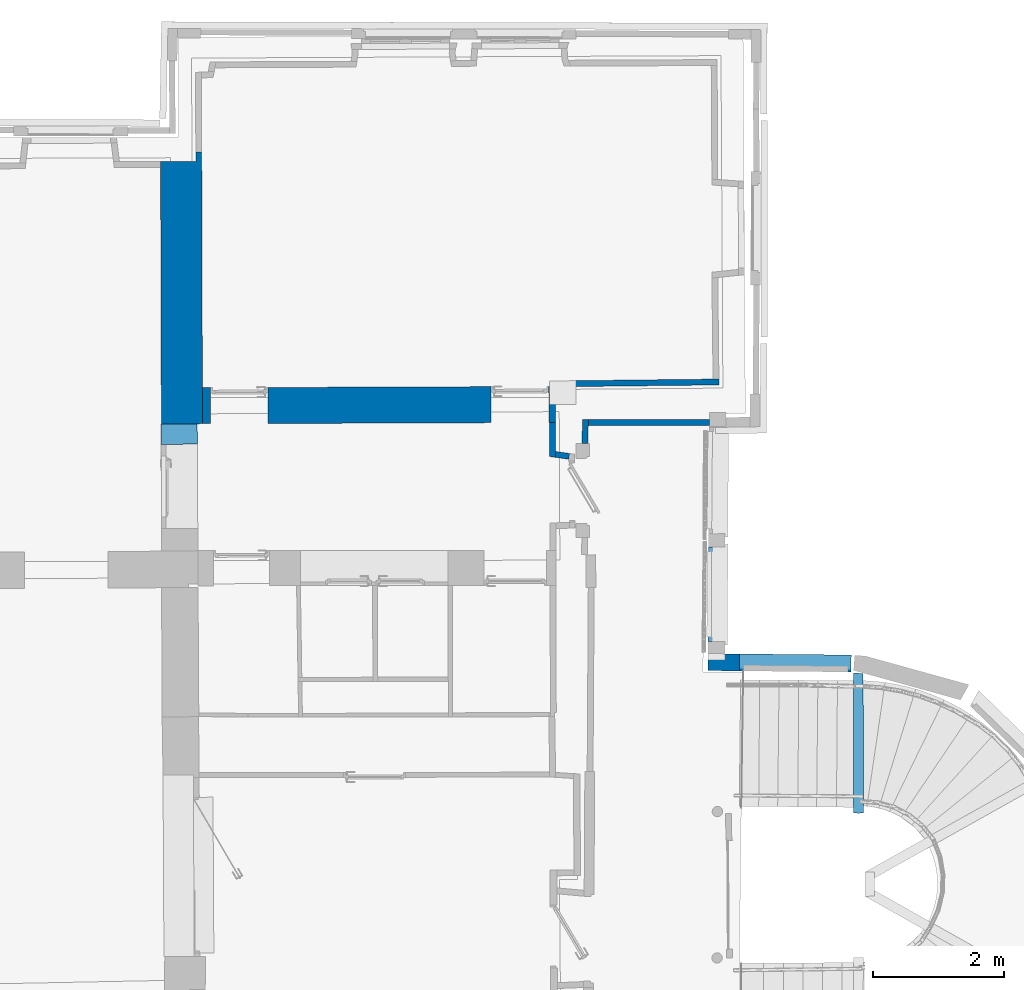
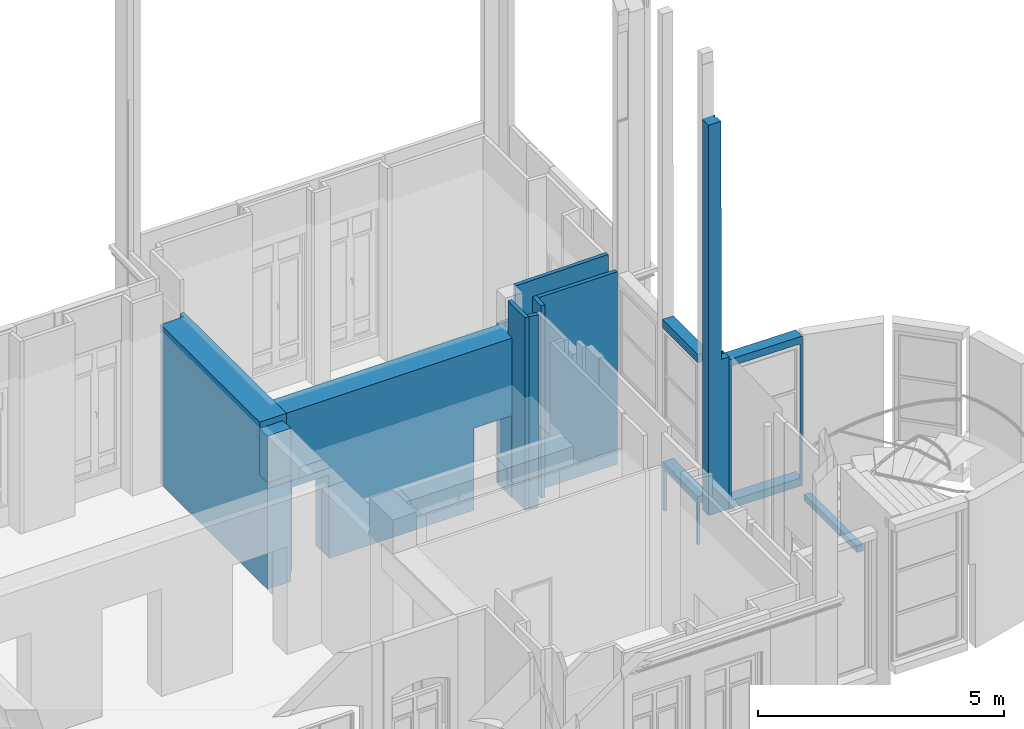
# One storey, part 17 of 97: 12 walls, 5 openings.
"""IFC2X3 building model written with IfcOpenShell, lengths in centimetres."""

import ifcopenshell
import ifcopenshell.guid

model = None  # the IFC model being written
_history = None  # IfcOwnerHistory: only IFC2X3 demands one
_inside = {}  # id of a spatial element -> (the spatial element, [elements in it])
_under = {}  # id of a project, library or spatial element -> (it, [spatial elements below it])
_declared = {}  # id of a project -> (the project, [libraries it declares])
_typed = {}  # id of a type object -> (the type object, [elements of that type])
_made_of = {}  # id of a material, layer set ... -> (it, [elements and type objects made of it])


def new_model(schema):
    """Start an empty IFC model of exactly this schema.

    Asked for "IFC4X3", IfcOpenShell would pick the latest addendum, in which some entities
    have other attributes; the version numbers below select the first issue.
    IFC2X3 requires an IfcOwnerHistory on every rooted entity: one is made here for all.
    """
    global model, _history
    if schema == "IFC4X3":
        model = ifcopenshell.file(schema_version=(4, 3, 0, 0))
    else:
        model = ifcopenshell.file(schema=schema)
    _inside.clear()
    _under.clear()
    _declared.clear()
    _typed.clear()
    _made_of.clear()
    _history = None
    if model.schema == "IFC2X3":
        org = make("IfcOrganization", Name="unknown")
        user = make(
            "IfcPersonAndOrganization",
            ThePerson=make("IfcPerson", FamilyName="unknown"),
            TheOrganization=org,
        )
        app = make(
            "IfcApplication",
            ApplicationDeveloper=org,
            Version="unknown",
            ApplicationFullName="unknown",
            ApplicationIdentifier="unknown",
        )
        _history = make(
            "IfcOwnerHistory",
            OwningUser=user,
            OwningApplication=app,
            ChangeAction="ADDED",
            CreationDate=0,
        )
    return model


def make(cls, **values):
    """One entity of the class cls with the attributes given. An attribute that is None is left unset."""
    return model.create_entity(
        cls, **{name: value for name, value in values.items() if value is not None}
    )


def entity(cls, *values):
    """Any entity or typed value of the class cls, its attributes in the order of the schema. None: left unset."""
    e = model.create_entity(cls)
    for i, value in enumerate(values):
        if value is not None:
            e[i] = value
    return e


def rooted(cls, **values):
    """An entity with a GlobalId (a new one), such as an element, a storey or a relation."""
    return make(cls, GlobalId=ifcopenshell.guid.new(), OwnerHistory=_history, **values)


def si_unit(unit_type, name, prefix=None):
    """IfcSIUnit, for example si_unit("LENGTHUNIT", "METRE", prefix="MILLI")."""
    return make("IfcSIUnit", UnitType=unit_type, Prefix=prefix, Name=name)


def converted_unit(unit_type, name, factor, base, dimensions=None, offset=None):
    """IfcConversionBasedUnit, such as the inch: factor (a typed value) times the base unit."""
    return make(
        "IfcConversionBasedUnit"
        if offset is None
        else "IfcConversionBasedUnitWithOffset",
        ConversionOffset=offset,
        Dimensions=None
        if dimensions is None
        else entity("IfcDimensionalExponents", *dimensions),
        UnitType=unit_type,
        Name=name,
        ConversionFactor=make(
            "IfcMeasureWithUnit", ValueComponent=factor, UnitComponent=base
        ),
    )


def assignment(units):
    """IfcUnitAssignment: the units of a project."""
    return None if units is None else make("IfcUnitAssignment", Units=units)


def point(xyz):
    """IfcCartesianPoint."""
    return None if xyz is None else make("IfcCartesianPoint", Coordinates=xyz)


def direction(xyz):
    """IfcDirection."""
    return None if xyz is None else make("IfcDirection", DirectionRatios=xyz)


def frame(location, z_axis=None, x_axis=None):
    """IfcAxis2Placement3D, a coordinate frame: its origin and axes. An axis left out is left unset."""
    return make(
        "IfcAxis2Placement3D",
        Location=point(location),
        Axis=direction(z_axis),
        RefDirection=direction(x_axis),
    )


def frame_2d(location, x_axis=None):
    """IfcAxis2Placement2D, a coordinate frame in the plane: its origin and x axis."""
    return make(
        "IfcAxis2Placement2D", Location=point(location), RefDirection=direction(x_axis)
    )


def origin():
    """The frame at (0, 0, 0) with its axes left unset."""
    return frame((0.0, 0.0, 0.0))


def origin_with_axes():
    """The frame at (0, 0, 0) with the z axis (0, 0, 1) and the x axis (1, 0, 0) written out."""
    return frame((0.0, 0.0, 0.0), z_axis=(0.0, 0.0, 1.0), x_axis=(1.0, 0.0, 0.0))


def origin_2d_with_axis():
    """The frame at (0, 0) in the plane with the x axis (1, 0) written out."""
    return frame_2d((0.0, 0.0), x_axis=(1.0, 0.0))


def place(relative_to, where):
    """IfcLocalPlacement: puts the frame where relative to a parent placement (None: the world)."""
    return make(
        "IfcLocalPlacement", PlacementRelTo=relative_to, RelativePlacement=where
    )


def context(
    kind, dimensions, precision=None, world=None, true_north=None, identifier=None
):
    """IfcGeometricRepresentationContext, for example the 3D "Model" context."""
    return make(
        "IfcGeometricRepresentationContext",
        ContextIdentifier=identifier,
        ContextType=kind,
        CoordinateSpaceDimension=dimensions,
        Precision=precision,
        WorldCoordinateSystem=world,
        TrueNorth=true_north,
    )


def subcontext(parent, identifier, kind, view, scale=None):
    """IfcGeometricRepresentationSubContext, for example "Body" below "Model"."""
    return make(
        "IfcGeometricRepresentationSubContext",
        ContextIdentifier=identifier,
        ContextType=kind,
        ParentContext=parent,
        TargetScale=scale,
        TargetView=view,
    )


def project(units=None, contexts=None):
    """IfcProject with its units and contexts."""
    return rooted(
        "IfcProject",
        Name="project",
        RepresentationContexts=contexts,
        UnitsInContext=assignment(units),
    )


def spatial(cls, under=None, at=None, **own):
    """A site, building, storey or space (cls), placed at a placement, below another one or the project."""
    s = rooted(cls, ObjectPlacement=at, **own)
    if under is not None:
        _under.setdefault(under.id(), (under, []))[1].append(s)
    return s


def polyline(points):
    """IfcPolyline through the points."""
    return make("IfcPolyline", Points=[point(p) for p in points])


def profile(cls, at=None, kind="AREA", **sizes):
    """A parametric profile (cls). Its sizes go by their IFC names, for example OverallWidth=200.0."""
    return make(cls, ProfileType=kind, Position=at, **sizes)


def rectangle(**sizes):
    """IfcRectangleProfileDef."""
    return profile("IfcRectangleProfileDef", **sizes)


def outline(outer, holes=None, kind="AREA"):
    """IfcArbitraryClosedProfileDef: a profile drawn as a closed curve; with holes, ...WithVoids."""
    if holes is None:
        return make("IfcArbitraryClosedProfileDef", ProfileType=kind, OuterCurve=outer)
    return make(
        "IfcArbitraryProfileDefWithVoids",
        ProfileType=kind,
        OuterCurve=outer,
        InnerCurves=holes,
    )


def extrude(swept, where, along, depth):
    """IfcExtrudedAreaSolid: the profile swept, set in the frame where, extruded along a direction by depth."""
    return make(
        "IfcExtrudedAreaSolid",
        SweptArea=swept,
        Position=where,
        ExtrudedDirection=direction(along),
        Depth=depth,
    )


def clip(a, b, op="DIFFERENCE"):
    """IfcBooleanClippingResult: the solid a cut by the half space b."""
    return make(
        "IfcBooleanClippingResult", Operator=op, FirstOperand=a, SecondOperand=b
    )


def bounded_halfspace(plane, agree, where, boundary):
    """IfcPolygonalBoundedHalfSpace: a half space limited to a polygon's prism."""
    return make(
        "IfcPolygonalBoundedHalfSpace",
        BaseSurface=make("IfcPlane", Position=plane),
        AgreementFlag=agree,
        Position=where,
        PolygonalBoundary=boundary,
    )


def faces_of(points, faces, orient=None, outer=None):
    """IfcFace entities. A face is a list of loops; a loop is a list of indices into points, from 0.

    orient and outer hold one flag for each loop. By default every Orientation is true, the
    first loop of a face is its IfcFaceOuterBound and the others are IfcFaceBound.
    """
    made = []
    for i, loops in enumerate(faces):
        bounds = []
        for j, loop in enumerate(loops):
            is_outer = j == 0 if outer is None else outer[i][j]
            bounds.append(
                make(
                    "IfcFaceOuterBound" if is_outer else "IfcFaceBound",
                    Bound=make("IfcPolyLoop", Polygon=[points[k] for k in loop]),
                    Orientation=True if orient is None else orient[i][j],
                )
            )
        made.append(make("IfcFace", Bounds=bounds))
    return made


def faceted_brep(points, faces, orient=None, outer=None, voids=None):
    """IfcFacetedBrep: a solid bounded by flat faces; with voids (closed shells), ...WithVoids."""
    shared = [point(p) for p in points]
    hull = make("IfcClosedShell", CfsFaces=faces_of(shared, faces, orient, outer))
    if voids is None:
        return make("IfcFacetedBrep", Outer=hull)
    return make(
        "IfcFacetedBrepWithVoids",
        Outer=hull,
        Voids=[
            make(cls, CfsFaces=faces_of(shared, fs, o, b)) for cls, fs, o, b in voids
        ],
    )


def shape(context_of_items, identifier, shape_type, items):
    """IfcShapeRepresentation: the items that make up one representation, for example the "Body"."""
    return make(
        "IfcShapeRepresentation",
        ContextOfItems=context_of_items,
        RepresentationIdentifier=identifier,
        RepresentationType=shape_type,
        Items=items,
    )


def material(Name=None, Category=None):
    """IfcMaterial."""
    return make("IfcMaterial", Name=Name, Category=Category)


def layer(
    of_material, thickness, ventilated=None, Name=None, Category=None, Priority=None
):
    """IfcMaterialLayer: one layer of a wall or slab, of a material (None: an air gap)."""
    return make(
        "IfcMaterialLayer",
        Material=of_material,
        LayerThickness=thickness,
        IsVentilated=ventilated,
        Name=Name,
        Category=Category,
        Priority=Priority,
    )


def layer_set(layers, Name=None):
    """IfcMaterialLayerSet."""
    return make("IfcMaterialLayerSet", MaterialLayers=layers, LayerSetName=Name)


def layer_usage(for_layer_set, set_direction, sense, offset, extent=None):
    """IfcMaterialLayerSetUsage: how a layer set lies in its element."""
    return make(
        "IfcMaterialLayerSetUsage",
        ForLayerSet=for_layer_set,
        LayerSetDirection=set_direction,
        DirectionSense=sense,
        OffsetFromReferenceLine=offset,
        ReferenceExtent=extent,
    )


def made_of(thing, what):
    """Note that an element or type object is made of a material, layer set ...; save() writes the relation."""
    if what is not None:
        _made_of.setdefault(what.id(), (what, []))[1].append(thing)
    return thing


def type_object(cls, material=None, **own):
    """A type object (cls), such as IfcWallType, which elements share."""
    return made_of(rooted(cls, **own), material)


def element(
    cls,
    number,
    at=None,
    inside=None,
    cuts=None,
    type_object=None,
    material=None,
    context=None,
    identifier="Body",
    shape_type=None,
    held_by="IfcProductDefinitionShape",
    body=None,
    shapes=None,
    **own,
):
    """One element of the class cls, such as IfcWall. Its Tag is "e" and its number.

    at: its placement. inside: the storey or other place that contains it. cuts: it is an
    opening in that element (IfcRelVoidsElement). A single representation is given by context,
    identifier, shape_type and body (its items); several are given by shapes. held_by: the class
    of the entity that holds the representations. save() writes the other relations.
    """
    e = rooted(cls, Tag="e%d" % number, ObjectPlacement=at, **own)
    if body is not None:
        shapes = [shape(context, identifier, shape_type, body)]
    if shapes is not None:
        e.Representation = make(held_by, Representations=shapes)
    if inside is not None:
        _inside.setdefault(inside.id(), (inside, []))[1].append(e)
    if cuts is not None:
        rooted(
            "IfcRelVoidsElement", RelatingBuildingElement=cuts, RelatedOpeningElement=e
        )
    if type_object is not None:
        _typed.setdefault(type_object.id(), (type_object, []))[1].append(e)
    return made_of(e, material)


def aggregate(whole, parts):
    """IfcRelAggregates: a whole, such as a stair, and the parts it consists of."""
    return rooted("IfcRelAggregates", RelatingObject=whole, RelatedObjects=parts)


def save(model, path):
    """Write the relations noted so far, then the file.

    IfcRelAggregates (storeys below a building ...), IfcRelContainedInSpatialStructure (elements
    in a storey), IfcRelDefinesByType, IfcRelAssociatesMaterial and IfcRelDeclares: one each for
    every whole, place, type object, material and project.
    """
    for whole, parts in _under.values():
        aggregate(whole, parts)
    for where, things in _inside.values():
        rooted(
            "IfcRelContainedInSpatialStructure",
            RelatedElements=things,
            RelatingStructure=where,
        )
    for kind, things in _typed.values():
        rooted("IfcRelDefinesByType", RelatedObjects=things, RelatingType=kind)
    for what, things in _made_of.values():
        rooted("IfcRelAssociatesMaterial", RelatedObjects=things, RelatingMaterial=what)
    for by, libraries in _declared.values():
        rooted("IfcRelDeclares", RelatingContext=by, RelatedDefinitions=libraries)
    model.write(path)


model = new_model("IFC2X3")

# Units and contexts
model_context = context("Model", 3, precision=0.0001, world=origin(), true_north=direction((0.225632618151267, 0.974212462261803, 0.0)))
body_context = subcontext(model_context, "Body", "Model", "MODEL_VIEW")
footprint_context = subcontext(model_context, "FootPrint", "Model", "MODEL_VIEW")
profile_context = subcontext(model_context, "Profile", "Model", "MODEL_VIEW")
ifc_project = project(units=[si_unit("LENGTHUNIT", "METRE", prefix="CENTI"), si_unit("AREAUNIT", "SQUARE_METRE", prefix="CENTI"), si_unit("VOLUMEUNIT", "CUBIC_METRE", prefix="CENTI"), converted_unit("PLANEANGLEUNIT", "DEGREE", entity("IfcRatioMeasure", 0.0174532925), si_unit("PLANEANGLEUNIT", "RADIAN"), dimensions=[0, 0, 0, 0, 0, 0, 0])], contexts=[model_context])

# Site, building, storey
site_placement = place(None, origin_with_axes())
site = spatial("IfcSite", under=ifc_project, at=site_placement, Name="Default Site", CompositionType="ELEMENT")
building_placement = place(site_placement, origin_with_axes())
building = spatial("IfcBuilding", under=site, at=building_placement, Name="Default Building", CompositionType="ELEMENT")
storey_placement = place(building_placement, origin_with_axes())
storey = spatial("IfcBuildingStorey", under=building, at=storey_placement, Name="Rez-de-chaussée", CompositionType="ELEMENT", Elevation=0.0)

# Wall, opening
ifc_material = material(Name="<aucun>")
ifc_layer_1 = layer(ifc_material, 26.0)
ifc_layer_set_1 = layer_set([ifc_layer_1], Name="default")
ifc_layer_usage_1 = layer_usage(ifc_layer_set_1, "AXIS2", "POSITIVE", -13.0)
wall_type_1 = type_object("IfcWallType", Name="default 260", PredefinedType="NOTDEFINED", material=ifc_layer_set_1)
wall_1_placement = place(storey_placement, frame((1291.15030565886, -210.44632109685, 100.0), z_axis=(0.0, 0.0, 1.0), x_axis=(-0.999951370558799, 0.00986187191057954, 0.0)))
wall_1 = element("IfcWallStandardCase", 1, at=wall_1_placement, inside=storey, type_object=wall_type_1, material=ifc_layer_usage_1, Name="Enveloppe 531206", context=body_context, shape_type="SweptSolid", body=[
    extrude(rectangle(XDim=26.0, YDim=170.571765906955, at=origin_2d_with_axis()), frame((87.0614002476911, -0.000168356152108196, 0.0), z_axis=(0.0, 0.0, 1.0), x_axis=(-8.67361737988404e-18, -1.0, 0.0)), (0.0, 0.0, 1.0), 370.795358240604),
])
opening_1_placement = place(wall_1_placement, frame((0.56850959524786, -2.8421709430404e-14, 19.7999999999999), z_axis=(0.0, 0.0, 1.0), x_axis=(-1.0, -5.95530569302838e-15, 0.0)))
cartesian_point_1 = entity("IfcCartesianPoint", [0.0, 0.0, 333.0])
cartesian_point_2 = entity("IfcCartesianPoint", [-171.904604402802, -13.0])
element("IfcOpeningElement", 2, at=opening_1_placement, cuts=wall_1, Name="4294966542_11", ObjectType="Opening", shapes=[
    shape(body_context, "Body", "Brep", [faceted_brep([(-6.0000248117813, -32.9999884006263, 332.999987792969), (-165.904651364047, -32.9999884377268, 332.999987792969), (-165.904651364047, -32.9999884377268, -4.57763671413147e-06), (-6.0000248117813, -32.9999884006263, -4.57763671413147e-06), (2.21615607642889e-05, 32.9999953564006, -4.57763671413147e-06), (-171.904604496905, 32.999995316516, -4.57763671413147e-06), (-171.904604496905, 32.999995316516, 332.999987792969), (2.21615607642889e-05, 32.9999953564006, 332.999987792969), (-6.00002481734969, -8.99998842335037, -4.57763671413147e-06), (-6.00002481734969, -8.99998842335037, 332.999987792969), (-6.00000777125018, -8.99998842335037, 332.999987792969), (-6.00000777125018, -8.99998842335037, -4.57763671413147e-06), (3.99044656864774e-05, -8.99998842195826, -4.57763671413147e-06), (3.99044656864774e-05, -8.99998842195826, 332.999987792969), (3.99044656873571e-05, -8.99999221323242, 332.999987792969), (3.99044658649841e-05, -8.99999221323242, -4.57763671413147e-06), (3.98947211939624e-05, 32.9999953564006, -4.57763671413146e-06), (3.98947210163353e-05, 32.9999953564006, 332.999987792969), (-165.904651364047, -32.9999991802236, -4.57763671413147e-06), (-165.904634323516, -8.99999920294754, -4.57763671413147e-06), (-171.904586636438, -8.99999447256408, -4.57763671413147e-06), (-171.904604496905, 33.0000050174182, -4.57763671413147e-06), (3.99044656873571e-05, -8.99999221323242, -4.57763671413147e-06), (-165.904651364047, -32.9999991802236, 332.999987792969), (-165.904651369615, -8.99999920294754, 332.999987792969), (-165.904651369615, -8.99999920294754, -4.57763671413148e-06), (-165.904634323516, -8.99999920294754, 332.999987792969), (-171.904586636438, -8.99999920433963, 332.999987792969), (-171.904586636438, -8.99999920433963, -4.57763671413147e-06), (-171.904586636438, -8.99999447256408, 332.999987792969), (-171.904586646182, 33.0000050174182, 332.999987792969), (-171.904586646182, 33.0000050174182, -4.57763671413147e-06), (-171.904604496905, 33.0000050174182, 332.999987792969)], [[[0, 1, 2, 3]], [[4, 5, 6, 7]], [[0, 3, 8, 9]], [[10, 11, 12, 13]], [[14, 15, 16, 17]], [[3, 18, 19, 20, 21, 4, 22, 11]], [[18, 23, 24, 25]], [[19, 26, 27, 28]], [[20, 29, 30, 31]], [[10, 14, 7, 32, 29, 26, 23, 0]]])]),
    shape(profile_context, "Profile", "GeometricCurveSet", [entity("IfcGeometricCurveSet", [entity("IfcPolyline", [cartesian_point_1, entity("IfcCartesianPoint", [0.0, 0.0, -2.22044604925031e-14]), entity("IfcCartesianPoint", [-171.904604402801, -2.22044604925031e-14, -2.22044604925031e-14]), entity("IfcCartesianPoint", [-171.904604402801, -2.22044604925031e-14, 333.0]), cartesian_point_1])])]),
    shape(footprint_context, "FootPrint", "GeometricCurveSet", [entity("IfcGeometricCurveSet", [entity("IfcPolyline", [cartesian_point_2, entity("IfcCartesianPoint", [-1.77635683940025e-13, -13.0]), entity("IfcCartesianPoint", [0.0, 13.0]), entity("IfcCartesianPoint", [-171.904604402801, 13.0]), cartesian_point_2])])]),
])

# Walls
ifc_layer_usage_2 = layer_usage(ifc_layer_set_1, "AXIS2", "POSITIVE", -13.0)
wall_2_placement = place(storey_placement, frame((1118.81140360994, -208.746654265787, 100.0), z_axis=(0.0, 0.0, 1.0), x_axis=(-0.999951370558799, 0.00986187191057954, 0.0)))
element("IfcWallStandardCase", 3, at=wall_2_placement, inside=storey, type_object=wall_type_1, material=ifc_layer_usage_2, Name="Enveloppe 2023464", context=body_context, shape_type="Clipping", body=[
    clip(clip(clip(clip(extrude(outline(polyline([(48.1416387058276, 13.0000000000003), (1.77635683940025e-13, 13.0000000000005), (3.5527136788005e-13, -13.0), (48.2442558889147, -12.9999999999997), (48.1416387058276, 13.0000000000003)])), origin_with_axes(), (0.0, 0.0, 1.0), 968.910374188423), bounded_halfspace(frame((1.17227123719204, -3.41964487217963, 365.795358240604), z_axis=(0.0, 0.0, -1.0), x_axis=(0.00334430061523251, -0.999994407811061, 0.0)), True, frame((1.17227123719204, -3.41964487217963, 365.795358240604), z_axis=(0.0, 0.0, 1.0), x_axis=(1.0, 0.0, 0.0)), polyline([(1.77635683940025e-13, 0.0), (0.0300987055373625, -8.99994967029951), (21.5692109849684, -8.9279160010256), (21.5336899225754, 0.0720155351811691), (1.77635683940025e-13, 0.0)]))), bounded_halfspace(frame((0.125830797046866, -13.0, 370.795358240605), z_axis=(0.0, 0.0, -1.0), x_axis=(-2.27248775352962e-16, 1.0, 0.0)), True, frame((0.125830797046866, -13.0, 370.795358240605), z_axis=(0.0, 0.0, 1.0), x_axis=(1.0, 0.0, 0.0)), polyline([(-0.125830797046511, 4.44089209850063e-14), (1.77635683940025e-13, 0.0), (-1.77635683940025e-13, 26.0000000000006), (-0.125830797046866, 26.0000000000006), (-0.125830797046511, 4.44089209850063e-14)]))), bounded_halfspace(frame((18.4371723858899, -12.9999999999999, 377.808208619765), z_axis=(0.0, 0.0, -1.0), x_axis=(-1.33573707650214e-16, 1.0, 0.0)), True, frame((18.4371723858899, -12.9999999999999, 377.808208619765), z_axis=(0.0, 0.0, 1.0), x_axis=(1.0, 0.0, 0.0)), polyline([(-18.3113415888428, -1.33226762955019e-13), (1.77635683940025e-13, 0.0), (1.77635683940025e-13, 26.0000000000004), (-18.3113415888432, 26.0000000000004), (-18.3113415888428, -1.33226762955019e-13)]))), bounded_halfspace(frame((18.4371723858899, -12.9999999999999, 753.910374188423), z_axis=(0.0, 0.0, -1.0), x_axis=(1.0, 1.60982338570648e-15, 0.0)), True, frame((18.4371723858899, -12.9999999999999, 753.910374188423), z_axis=(0.0, 0.0, 1.0), x_axis=(1.0, 0.0, 0.0)), polyline([(1.77635683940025e-13, 0.0), (0.776473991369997, 0.0), (0.776473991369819, 26.0000000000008), (-1.77635683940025e-13, 26.0000000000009), (1.77635683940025e-13, 0.0)]))),
])
ifc_layer_2 = layer(ifc_material, 9.0)
ifc_layer_set_2 = layer_set([ifc_layer_2], Name="default")
ifc_layer_usage_3 = layer_usage(ifc_layer_set_2, "AXIS2", "POSITIVE", -4.5)
wall_type_2 = type_object("IfcWallType", Name="default 90", PredefinedType="NOTDEFINED", material=ifc_layer_set_2)
wall_3_placement = place(storey_placement, frame((1100.94212074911, 157.757147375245, 0.0128503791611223), z_axis=(0.0, 0.0, 1.0), x_axis=(-0.999998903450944, 0.00148091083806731, 0.0)))
element("IfcWallStandardCase", 4, at=wall_3_placement, inside=storey, type_object=wall_type_2, material=ifc_layer_usage_3, Name="Enveloppe 367727", context=body_context, shape_type="SweptSolid", body=[
    extrude(outline(polyline([(213.426262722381, 4.50000000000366), (28.294161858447, 4.50000000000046), (28.2359685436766, -4.49999999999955), (213.199800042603, -4.49999999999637), (213.426262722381, 4.50000000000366)])), frame((0.0, 0.0, -3.10862446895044e-13), z_axis=(0.0, 0.0, 1.0), x_axis=(1.0, 0.0, 0.0)), (0.0, 0.0, 1.0), 477.795358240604),
])
ifc_layer_usage_4 = layer_usage(ifc_layer_set_2, "AXIS2", "POSITIVE", -4.5)
wall_4_placement = place(storey_placement, frame((882.266485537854, 125.749559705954, 0.0128503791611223), z_axis=(0.0, 0.0, 1.0), x_axis=(0.0266349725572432, 0.999645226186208, 0.0)))
element("IfcWallStandardCase", 5, at=wall_4_placement, inside=storey, type_object=wall_type_2, material=ifc_layer_usage_4, Name="Enveloppe 367684", context=body_context, shape_type="SweptSolid", body=[
    extrude(outline(polyline([(4.44089209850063e-14, 4.49999999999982), (2.22044604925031e-14, -4.49999999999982), (36.9562811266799, -4.49999999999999), (36.7298184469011, 4.49999999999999), (4.44089209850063e-14, 4.49999999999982)])), origin_with_axes(), (0.0, 0.0, 1.0), 477.795358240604),
])
ifc_layer_usage_5 = layer_usage(ifc_layer_set_2, "AXIS2", "POSITIVE", -4.5)
wall_5_placement = place(storey_placement, frame((832.819986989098, 105.969178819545, 0.0128503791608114), z_axis=(0.0, 0.0, 1.0), x_axis=(0.00240470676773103, 0.999997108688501, 0.0)))
element("IfcWallStandardCase", 6, at=wall_5_placement, inside=storey, type_object=wall_type_2, material=ifc_layer_usage_5, Name="Enveloppe 720799", context=body_context, shape_type="Clipping", body=[
    clip(extrude(outline(polyline([(-3.05799829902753e-10, 4.50000000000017), (-1.28705972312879, -4.49999999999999), (69.4073768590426, -4.50000000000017), (69.4073768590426, 4.49999999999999), (-3.05799829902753e-10, 4.50000000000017)])), frame((0.0, 0.0, -2.71050543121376e-18), z_axis=(0.0, 0.0, 1.0), x_axis=(1.0, 0.0, 0.0)), (0.0, 0.0, 1.0), 477.795358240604), bounded_halfspace(frame((69.4073768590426, 4.49999999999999, 395.995358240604), z_axis=(0.0, 0.0, 1.0), x_axis=(0.0, -1.0, 0.0)), True, frame((69.4073768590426, 4.49999999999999, 395.995358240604), z_axis=(0.0, 0.0, 1.0), x_axis=(1.0, 0.0, 0.0)), polyline([(-17.4233869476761, 0.0), (-2.22044604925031e-14, 0.0), (4.44089209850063e-14, -9.00000000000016), (-17.3701555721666, -8.99999999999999), (-17.4233869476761, 0.0)]))),
])
ifc_layer_usage_6 = layer_usage(ifc_layer_set_2, "AXIS2", "POSITIVE", -4.5)
wall_6_placement = place(storey_placement, frame((828.290433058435, 216.971440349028, 0.0128503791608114), z_axis=(0.0, 0.0, 1.0), x_axis=(0.999935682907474, 0.0113415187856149, 0.0)))
element("IfcWallStandardCase", 7, at=wall_6_placement, inside=storey, type_object=wall_type_2, material=ifc_layer_usage_6, Name="Enveloppe 673150", context=body_context, shape_type="Clipping", body=[
    clip(clip(extrude(outline(polyline([(0.0, 4.49999999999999), (0.0, -3.90219960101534), (9.23548413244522, -3.9745328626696), (9.23548413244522, -4.50000000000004), (258.945543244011, -4.50000000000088), (258.948097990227, 4.49999999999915), (0.0, 4.49999999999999)])), origin_with_axes(), (0.0, 0.0, 1.0), 477.795358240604), bounded_halfspace(frame((0.0631136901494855, -3.90269391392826, 395.995358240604), z_axis=(0.0, 0.0, -1.0), x_axis=(0.00897648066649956, 0.999959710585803, 0.0)), True, frame((0.0631136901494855, -3.90269391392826, 395.995358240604), z_axis=(0.0, 0.0, 1.0), x_axis=(1.0, 0.0, 0.0)), polyline([(-0.0631136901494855, 0.000494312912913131), (0.0, -4.44089209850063e-14), (0.0754296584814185, 8.40269391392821), (-0.0631136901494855, 8.40269391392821), (-0.0631136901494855, 0.000494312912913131)]))), bounded_halfspace(frame((9.23548413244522, -4.50000000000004, 395.995358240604), z_axis=(0.0, 0.0, -1.0), x_axis=(1.0, -3.90312782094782e-15, 0.0)), True, frame((9.23548413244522, -4.50000000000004, 395.995358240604), z_axis=(0.0, 0.0, 1.0), x_axis=(1.0, 0.0, 0.0)), polyline([(-9.17237044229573, 0.597306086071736), (0.0, 0.525467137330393), (0.0, 0.0), (30.8238792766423, -1.33226762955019e-13), (30.904670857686, 8.99999999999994), (-9.09694078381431, 8.99999999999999), (-9.17237044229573, 0.597306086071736)]))),
])
ifc_layer_usage_7 = layer_usage(ifc_layer_set_2, "AXIS2", "POSITIVE", -4.5)
wall_7_placement = place(storey_placement, frame((858.224077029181, 106.177470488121, 0.0128503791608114), z_axis=(0.0, 0.0, 1.0), x_axis=(-0.98958547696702, 0.143946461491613, 0.0)))
element("IfcWallStandardCase", 8, at=wall_7_placement, inside=storey, type_object=wall_type_2, material=ifc_layer_usage_7, Name="Enveloppe 720894", context=body_context, shape_type="SweptSolid", body=[
    extrude(outline(polyline([(20.4726518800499, 4.5000000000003), (0.0270164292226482, 4.50000000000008), (0.0270164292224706, -4.49999999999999), (21.7597116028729, -4.49999999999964), (20.4726518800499, 4.5000000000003)])), frame((0.0, 0.0, -2.71050543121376e-18), z_axis=(0.0, 0.0, 1.0), x_axis=(1.0, 0.0, 0.0)), (0.0, 0.0, 1.0), 477.795358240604),
])
ifc_layer_3 = layer(ifc_material, 15.0)
ifc_layer_set_3 = layer_set([ifc_layer_3], Name="default")
ifc_layer_usage_8 = layer_usage(ifc_layer_set_3, "AXIS2", "POSITIVE", -7.5)
wall_type_3 = type_object("IfcWallType", Name="default 150", PredefinedType="NOTDEFINED", material=ifc_layer_set_3)
wall_8_placement = place(storey_placement, frame((1300.57116865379, -430.198668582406, 62.3971914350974), z_axis=(0.0, 0.0, 1.0), x_axis=(-0.00165307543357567, 0.999998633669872, 0.0)))
element("IfcWallStandardCase", 9, at=wall_8_placement, inside=storey, type_object=wall_type_3, material=ifc_layer_usage_8, Name="Enveloppe 710091", context=body_context, shape_type="SweptSolid", body=[
    extrude(outline(polyline([(205.568337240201, 7.49999999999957), (-9.00104423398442, 7.49999999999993), (-8.99675832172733, 1.49999999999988), (-9.09675804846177, 1.5001653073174), (-9.09675803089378, -7.49982406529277), (204.370325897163, -7.50000000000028), (205.568337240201, 7.49999999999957)])), frame((0.0, 0.0, 7.7715611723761e-14), z_axis=(0.0, 0.0, 1.0), x_axis=(1.0, 0.0, 0.0)), (0.0, 0.0, 1.0), 15.3981668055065),
])

# Wall, openings
ifc_layer_4 = layer(ifc_material, 25.5)
ifc_layer_set_4 = layer_set([ifc_layer_4], Name="default")
ifc_layer_usage_9 = layer_usage(ifc_layer_set_4, "AXIS2", "POSITIVE", -12.75)
wall_type_4 = type_object("IfcWallType", Name="default 255", PredefinedType="NOTDEFINED", material=ifc_layer_set_4)
wall_9_placement = place(storey_placement, frame((1083.47369991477, -176.791939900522, 0.0128503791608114), z_axis=(0.0, 0.0, 1.0), x_axis=(0.00502234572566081, 0.999987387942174, 0.0)))
wall_9 = element("IfcWallStandardCase", 10, at=wall_9_placement, inside=storey, type_object=wall_type_4, material=ifc_layer_usage_9, Name="Enveloppe 728190", context=body_context, shape_type="SweptSolid", body=[
    extrude(rectangle(XDim=144.13896955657, YDim=25.5000000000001, at=origin_2d_with_axis()), frame((72.1624117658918, 1.77635683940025e-13, -5.42101086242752e-18), z_axis=(0.0, 0.0, 1.0), x_axis=(1.0, 5.40366362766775e-16, 0.0)), (0.0, 0.0, 1.0), 472.782507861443),
])
opening_2_placement = place(wall_9_placement, frame((2.8421709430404e-14, 0.0, -1.38951350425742e-15), z_axis=(0.0, 0.0, 1.0), x_axis=(-1.0, -1.99493199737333e-17, 0.0)))
cartesian_point_3 = entity("IfcCartesianPoint", [0.0, 0.0, 101.871089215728])
cartesian_point_4 = entity("IfcCartesianPoint", [-144.331896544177, -12.75])
element("IfcOpeningElement", 11, at=opening_2_placement, cuts=wall_9, Name="4294966482_11", ObjectType="Opening", shapes=[
    shape(body_context, "Body", "Brep", [faceted_brep([(-6.99999932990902, -32.7499538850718, 101.871085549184), (-137.33189540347, -32.7499538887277, 101.871085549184), (-137.33189540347, -32.7499538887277, -4.6260634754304e-10), (-6.99999932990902, -32.7499538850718, -4.6260634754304e-10), (5.61012087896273e-06, 32.7499530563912, -4.6260634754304e-10), (-144.324824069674, 32.7499530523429, -4.6260634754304e-10), (-144.324824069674, 32.7499530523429, 101.871085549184), (5.61012087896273e-06, 32.7499530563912, 101.871085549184), (-6.99999933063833, -6.74998454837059, -4.6260634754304e-10), (-6.99999933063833, -6.74998454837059, 101.871085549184), (-6.99999830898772, -6.74998454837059, 101.871085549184), (-6.99999830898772, -6.74998454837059, -4.6260634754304e-10), (2.47917010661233e-08, -6.74998454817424, -4.6260634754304e-10), (2.47917010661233e-08, -6.74998454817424, 101.871085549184), (2.47917020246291e-08, -6.75001871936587, 101.871085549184), (2.47917020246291e-08, -6.75001871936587, -4.6260634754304e-10), (2.36837233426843e-08, 32.7499530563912, -4.6260634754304e-10), (2.36837233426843e-08, 32.7499530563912, 101.871085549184), (-137.33189540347, -32.7500190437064, -4.6260634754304e-10), (-137.331897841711, -6.74995435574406, -4.6260634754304e-10), (-144.331895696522, -6.75001555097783, -4.6260634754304e-10), (-144.331896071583, 32.7499561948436, -4.6260634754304e-10), (-137.33189540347, -32.7500190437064, 101.871085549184), (-137.331895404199, -6.74995435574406, 101.871085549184), (-137.331895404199, -6.74995435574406, -4.6260634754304e-10), (-137.331897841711, -6.74995435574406, 101.871085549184), (-144.331895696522, -6.74995435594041, 101.871085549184), (-144.331895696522, -6.74995435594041, -4.6260634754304e-10), (-144.331895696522, -6.75001555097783, 101.871085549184), (-144.33189569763, 32.7499561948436, 101.871085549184), (-144.33189569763, 32.7499561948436, -4.6260634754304e-10), (-144.331896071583, 32.7499561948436, 101.871085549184)], [[[0, 1, 2, 3]], [[4, 5, 6, 7]], [[0, 3, 8, 9]], [[10, 11, 12, 13]], [[14, 15, 16, 17]], [[3, 18, 19, 20, 21, 4, 15, 11]], [[18, 22, 23, 24]], [[19, 25, 26, 27]], [[20, 28, 29, 30]], [[10, 14, 7, 31, 28, 25, 22, 0]]])]),
    shape(profile_context, "Profile", "GeometricCurveSet", [entity("IfcGeometricCurveSet", [entity("IfcPolyline", [cartesian_point_3, entity("IfcCartesianPoint", [0.0, 0.0, 0.0]), entity("IfcCartesianPoint", [-144.331896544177, 0.0, 0.0]), entity("IfcCartesianPoint", [-144.331896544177, 0.0, 101.871089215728]), cartesian_point_3])])]),
    shape(footprint_context, "FootPrint", "GeometricCurveSet", [entity("IfcGeometricCurveSet", [entity("IfcPolyline", [cartesian_point_4, entity("IfcCartesianPoint", [0.0, -12.7500000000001]), entity("IfcCartesianPoint", [0.0, 12.75]), entity("IfcCartesianPoint", [-144.331896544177, 12.7500000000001]), cartesian_point_4])])]),
])
opening_3_placement = place(wall_9_placement, frame((2.8421709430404e-14, 0.0, 119.987149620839), z_axis=(0.0, 0.0, 1.0), x_axis=(-1.0, -1.99493199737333e-17, 0.0)))
cartesian_point_5 = entity("IfcCartesianPoint", [-2.22044604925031e-14, 0.0, 331.674556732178])
cartesian_point_6 = entity("IfcCartesianPoint", [-144.324823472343, -12.75])
element("IfcOpeningElement", 12, at=opening_3_placement, cuts=wall_9, Name="4294966481_11", ObjectType="Opening", shapes=[
    shape(body_context, "Body", "SweptSolid", [extrude(outline(polyline([(2.22044604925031e-14, 331.674556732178), (0.0, -2.22044604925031e-14), (144.324823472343, -2.22044604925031e-14), (144.324823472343, 331.674556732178), (2.22044604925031e-14, 331.674556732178)])), frame((0.0, -22.75, 0.0), z_axis=(0.0, 1.0, 0.0), x_axis=(-1.0, 0.0, 0.0)), (0.0, 0.0, 1.0), 45.5)]),
    shape(profile_context, "Profile", "GeometricCurveSet", [entity("IfcGeometricCurveSet", [entity("IfcPolyline", [cartesian_point_5, entity("IfcCartesianPoint", [0.0, 0.0, -2.22044604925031e-14]), entity("IfcCartesianPoint", [-144.324823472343, 0.0, -2.22044604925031e-14]), entity("IfcCartesianPoint", [-144.324823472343, 0.0, 331.674556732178]), cartesian_point_5])])]),
    shape(footprint_context, "FootPrint", "GeometricCurveSet", [entity("IfcGeometricCurveSet", [entity("IfcPolyline", [cartesian_point_6, entity("IfcCartesianPoint", [0.0, -12.7500000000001]), entity("IfcCartesianPoint", [0.0, 12.75]), entity("IfcCartesianPoint", [-144.324823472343, 12.75]), cartesian_point_6])])]),
])

# Wall
ifc_layer_5 = layer(ifc_material, 55.2076599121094)
ifc_layer_set_5 = layer_set([ifc_layer_5], Name="default")
ifc_layer_usage_10 = layer_usage(ifc_layer_set_5, "AXIS2", "POSITIVE", -27.604)
wall_type_5 = type_object("IfcWallType", Name="default 552.076599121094", PredefinedType="NOTDEFINED", material=ifc_layer_set_5)
wall_10_placement = place(storey_placement, frame((262.288599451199, 124.753459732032, 0.0128503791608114), z_axis=(0.0, 0.0, 1.0), x_axis=(-0.00550813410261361, 0.999984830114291, 0.0)))
element("IfcWallStandardCase", 13, at=wall_10_placement, inside=storey, type_object=wall_type_5, material=ifc_layer_usage_10, Name="Enveloppe 2767", context=body_context, shape_type="SweptSolid", body=[
    extrude(outline(polyline([(31.2755405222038, 27.604), (-0.0338975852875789, 27.6815138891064), (-0.03389722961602, -27.603813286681), (31.167972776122, -27.604), (31.1679745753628, 27.1811490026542), (31.2755405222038, 27.180556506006), (31.2755405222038, 27.604)])), frame((0.0, 0.0, 264.987149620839), z_axis=(0.0, 0.0, 1.0), x_axis=(1.0, 0.0, 0.0)), (0.0, 0.0, 1.0), 115.708208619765),
])

# Wall, openings
ifc_layer_6 = layer(ifc_material, 55.1057006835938)
ifc_layer_set_6 = layer_set([ifc_layer_6], Name="default")
ifc_layer_usage_11 = layer_usage(ifc_layer_set_6, "AXIS2", "POSITIVE", -27.553)
wall_type_6 = type_object("IfcWallType", Name="default 551.057006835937", PredefinedType="NOTDEFINED", material=ifc_layer_set_6)
wall_11_placement = place(storey_placement, frame((234.839600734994, 183.433403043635, 0.0128503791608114), z_axis=(0.0, 0.0, 1.0), x_axis=(0.999993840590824, 0.00350981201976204, 0.0)))
wall_11 = element("IfcWallStandardCase", 14, at=wall_11_placement, inside=storey, type_object=wall_type_6, material=ifc_layer_usage_11, Name="Enveloppe 2729", context=body_context, shape_type="SweptSolid", body=[
    extrude(outline(polyline([(62.927013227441, 27.5528499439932), (62.900941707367, -27.5528499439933), (602.512513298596, -27.5528499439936), (602.831218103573, 27.5528499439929), (62.927013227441, 27.5528499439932)])), frame((0.0, 0.0, -2.71050543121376e-18), z_axis=(0.0, 0.0, 1.0), x_axis=(1.0, 0.0, 0.0)), (0.0, 0.0, 1.0), 395.995358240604),
])
opening_4_placement = place(wall_11_placement, frame((503.805126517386, -3.12638803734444e-13, 1.77633949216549e-13), z_axis=(0.0, 0.0, 1.0), x_axis=(-1.0, 6.49653941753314e-16, 0.0)))
cartesian_point_7 = entity("IfcCartesianPoint", [0.0, 0.0, 203.664944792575])
cartesian_point_8 = entity("IfcCartesianPoint", [-88.4982197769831, -27.5528499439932])
element("IfcOpeningElement", 15, at=opening_4_placement, cuts=wall_11, Name="4294966363_11", ObjectType="Opening", shapes=[
    shape(body_context, "Body", "SweptSolid", [extrude(outline(polyline([(-8.88178419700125e-14, 203.664944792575), (-8.88178419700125e-14, 0.0), (88.4982197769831, 0.0), (88.4982197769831, 203.664944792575), (-8.88178419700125e-14, 203.664944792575)])), frame((0.0, -37.5528499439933, 0.0), z_axis=(0.0, 1.0, 0.0), x_axis=(-1.0, 0.0, 0.0)), (0.0, 0.0, 1.0), 75.1056998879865)]),
    shape(profile_context, "Profile", "GeometricCurveSet", [entity("IfcGeometricCurveSet", [entity("IfcPolyline", [cartesian_point_7, entity("IfcCartesianPoint", [0.0, 0.0, 0.0]), entity("IfcCartesianPoint", [-88.498219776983, 2.22044604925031e-14, 0.0]), entity("IfcCartesianPoint", [-88.498219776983, 2.22044604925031e-14, 203.664944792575]), cartesian_point_7])])]),
    shape(footprint_context, "FootPrint", "GeometricCurveSet", [entity("IfcGeometricCurveSet", [entity("IfcPolyline", [cartesian_point_8, entity("IfcCartesianPoint", [8.88178419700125e-14, -27.5528499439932]), entity("IfcCartesianPoint", [0.0, 27.5528499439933]), entity("IfcCartesianPoint", [-88.4982197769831, 27.5528499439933]), cartesian_point_8])])]),
])
opening_5_placement = place(wall_11_placement, frame((75.3387982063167, -2.8421709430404e-14, -8.88195766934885e-14), z_axis=(0.0, 0.0, 1.0), x_axis=(-1.0, 6.49653941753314e-16, 0.0)))
cartesian_point_9 = entity("IfcCartesianPoint", [-4.44089209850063e-14, 0.0, 208.0])
cartesian_point_10 = entity("IfcCartesianPoint", [-88.0285658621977, -27.5528499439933])
element("IfcOpeningElement", 16, at=opening_5_placement, cuts=wall_11, Name="4294966344_11", ObjectType="Opening", shapes=[
    shape(body_context, "Body", "SweptSolid", [extrude(outline(polyline([(4.44089209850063e-14, 208.0), (0.0, -2.71050543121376e-18), (88.0285658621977, -2.71050543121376e-18), (88.0285658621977, 208.0), (4.44089209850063e-14, 208.0)])), frame((0.0, -37.5528499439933, 0.0), z_axis=(0.0, 1.0, 0.0), x_axis=(-1.0, 0.0, 0.0)), (0.0, 0.0, 1.0), 75.1056998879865)]),
    shape(profile_context, "Profile", "GeometricCurveSet", [entity("IfcGeometricCurveSet", [entity("IfcPolyline", [cartesian_point_9, entity("IfcCartesianPoint", [0.0, 0.0, -2.71050543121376e-18]), entity("IfcCartesianPoint", [-88.0285658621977, 0.0, -2.71050543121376e-18]), entity("IfcCartesianPoint", [-88.0285658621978, 0.0, 208.0]), cartesian_point_9])])]),
    shape(footprint_context, "FootPrint", "GeometricCurveSet", [entity("IfcGeometricCurveSet", [entity("IfcPolyline", [cartesian_point_10, entity("IfcCartesianPoint", [0.0, -27.5528499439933]), entity("IfcCartesianPoint", [-4.44089209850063e-14, 27.5528499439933]), entity("IfcCartesianPoint", [-88.0285658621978, 27.5528499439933]), cartesian_point_10])])]),
])

# Wall
ifc_layer_7 = layer(ifc_material, 62.9010620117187)
ifc_layer_set_7 = layer_set([ifc_layer_7], Name="default")
ifc_layer_usage_12 = layer_usage(ifc_layer_set_7, "AXIS2", "POSITIVE", -31.451)
wall_type_7 = type_object("IfcWallType", Name="default 629.010620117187", PredefinedType="NOTDEFINED", material=ifc_layer_set_7)
wall_12_placement = place(storey_placement, frame((266.386118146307, 156.123428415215, 0.0128503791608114), z_axis=(0.0, 0.0, 1.0), x_axis=(-0.00303669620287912, 0.999995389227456, 0.0)))
element("IfcWallStandardCase", 17, at=wall_12_placement, inside=storey, type_object=wall_type_7, material=ifc_layer_usage_12, Name="Enveloppe 161207", context=body_context, shape_type="Clipping", body=[
    clip(clip(extrude(outline(polyline([(401.019640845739, 31.4505305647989), (-31.4586461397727, 31.450530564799), (-31.4422006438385, 24.7968008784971), (-31.4083030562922, 24.7966979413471), (-31.2891589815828, -23.4111548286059), (-0.121281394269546, -23.3341244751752), (-0.11744137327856, -31.4505305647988), (414.938950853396, -31.4505305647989), (414.938950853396, -22.4505305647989), (401.019640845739, -22.4505305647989), (401.019640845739, 31.4505305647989)])), frame((0.0, 0.0, -5.42101086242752e-18), z_axis=(0.0, 0.0, 1.0), x_axis=(1.0, 0.0, 0.0)), (0.0, 0.0, 1.0), 395.995358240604), bounded_halfspace(frame((-31.4083030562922, 24.7966979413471, 264.987149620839), z_axis=(0.0, 0.0, -1.0), x_axis=(0.00247145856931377, -0.999996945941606, 0.0)), True, frame((-31.4083030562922, 24.7966979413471, 264.987149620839), z_axis=(0.0, 0.0, 1.0), x_axis=(1.0, 0.0, 0.0)), polyline([(-0.0503430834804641, 6.65383262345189), (-0.0338981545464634, -8.37781403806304e-05), (0.0, 0.0), (0.119144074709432, -48.2078527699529), (31.2870216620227, -48.1308224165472), (31.1516232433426, 6.65383262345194), (-0.0503430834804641, 6.65383262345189)]))), bounded_halfspace(frame((-0.121281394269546, -23.3341244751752, 380.695358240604), z_axis=(0.0, 0.0, -1.0), x_axis=(-0.000507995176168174, 0.999999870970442, 0.0)), True, frame((-0.121281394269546, -23.3341244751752, 380.695358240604), z_axis=(0.0, 0.0, 1.0), x_axis=(1.0, 0.0, 0.0)), polyline([(-0.135398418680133, 54.7846550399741), (2.22044604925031e-14, 4.44089209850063e-14), (-0.0278303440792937, 54.7846550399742), (-0.135398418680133, 54.7846550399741)]))),
])

save(model, "model.ifc")
